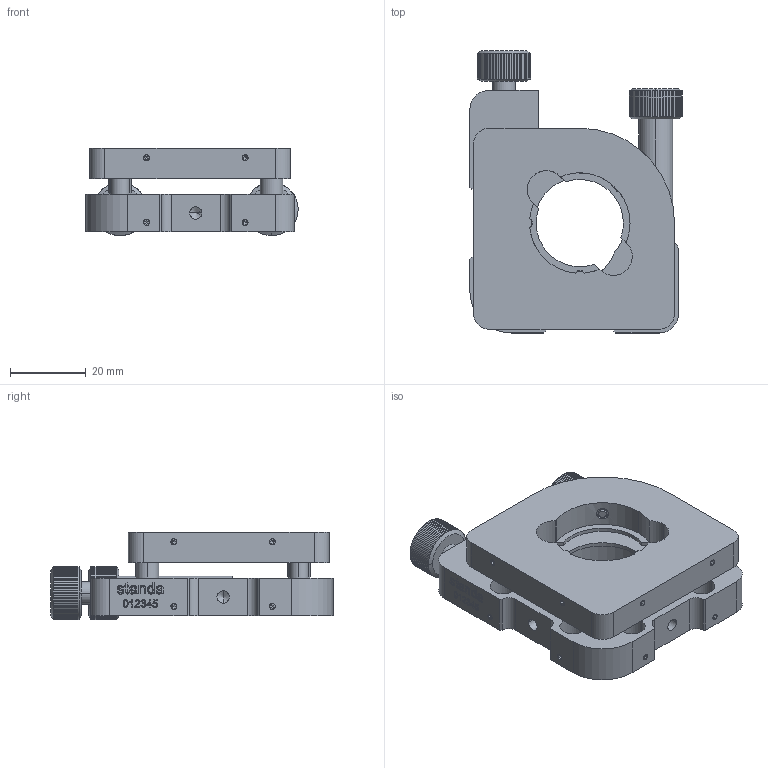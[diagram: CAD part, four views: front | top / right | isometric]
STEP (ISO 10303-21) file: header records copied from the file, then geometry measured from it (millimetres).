
FILE_DESCRIPTION (( 'STEP AP203' ), '1' );
FILE_NAME ('5BM79T-1.STEP', '2010-11-26T13:29:57', ( 'Darius' ), ( '' ), 'SwSTEP 2.0', 'SolidWorks 2003240', '' );
FILE_SCHEMA (( 'CONFIG_CONTROL_DESIGN' ));
Length unit declared in the file: millimetre
Products named in the file (1): 5BM79T-1
Bounding box: 56 x 74.42 x 23.06 mm (x, y, z)
Volume: 39456.5 mm3; surface area: 17460.6 mm2
Topology: 1 solids, 11 shells, 759 faces, 2087 edges, 1354 vertices
Faces by surface type: plane 417, cylinder 134, bspline 115, cone 93
Entity records: 27394 total; most frequent: CARTESIAN_POINT 9730, ORIENTED_EDGE 4090, DIRECTION 2913, EDGE_CURVE 2045, VERTEX_POINT 1354, AXIS2_PLACEMENT_3D 973, LINE 967, VECTOR 967
